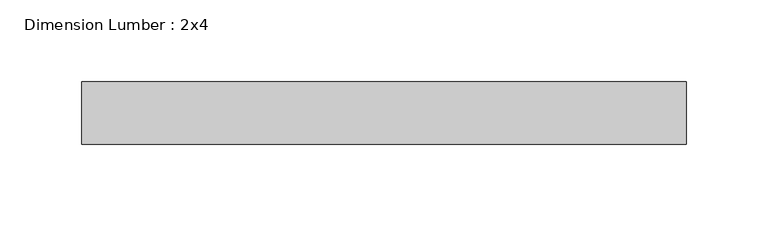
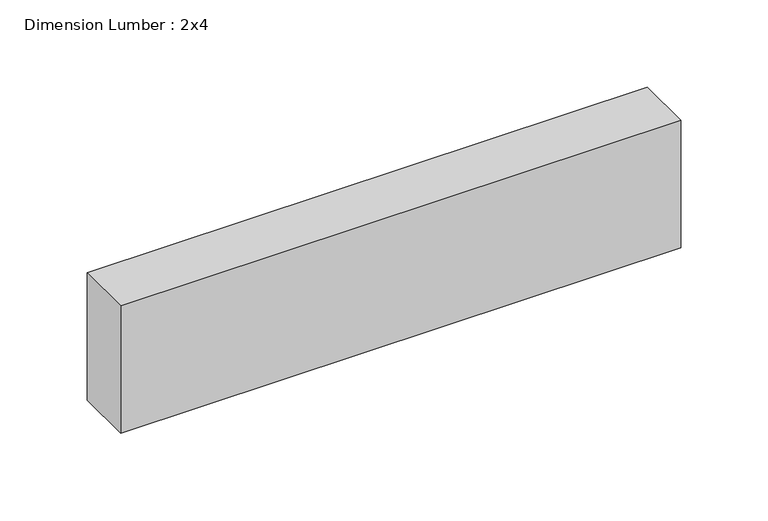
"""IFC4 building model written with IfcOpenShell, lengths in millimetres: beam geometry, Dimension Lumber : 2x4."""

from ifc_helpers import new_model, si_unit, frame, origin, place, context, project, spatial, polyline, outline, extrude, source, transform, mapped, element, save


def dimension_lumber_2x4_55c8757b(model_context):
    return source(origin(), model_context, "Body", "SweptSolid", [
        extrude(outline(polyline([(184.8935913, 19.05), (184.8935913, -19.05), (-184.8935913, -19.05), (-184.8935913, 19.05), (184.8935913, 19.05)])), frame((0.0, 0.0, -44.45), z_axis=(0.0, 0.0, 1.0), x_axis=(1.0, 0.0, 0.0)), (0.0, 0.0, 1.0), 88.9),
    ])


if __name__ == "__main__":
    model = new_model("IFC4")
    model_context = context("Model", 3, world=origin())
    ifc_project = project(units=[si_unit("LENGTHUNIT", "METRE", prefix="MILLI")], contexts=[model_context])
    site = spatial("IfcSite", under=ifc_project)
    building = spatial("IfcBuilding", under=site)
    placement = place(None, origin())
    dimension_lumber_2x4_shape = dimension_lumber_2x4_55c8757b(model_context)
    element("IfcBeam", 1, ObjectType="Dimension Lumber : 2x4", at=placement, inside=building, context=model_context, shape_type="MappedRepresentation", body=[
        mapped(dimension_lumber_2x4_shape, transform((0.0, 0.0, 0.0), x_axis=(1.0, 0.0, 0.0), y_axis=(0.0, 1.0, 0.0), z_axis=(0.0, 0.0, 1.0))),
    ])
    save(model, "model.ifc")
